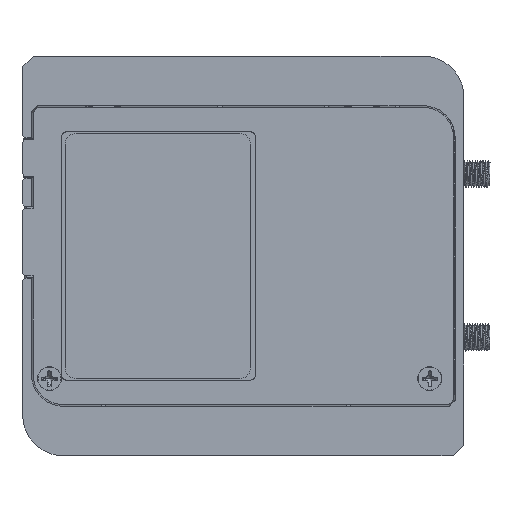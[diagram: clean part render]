
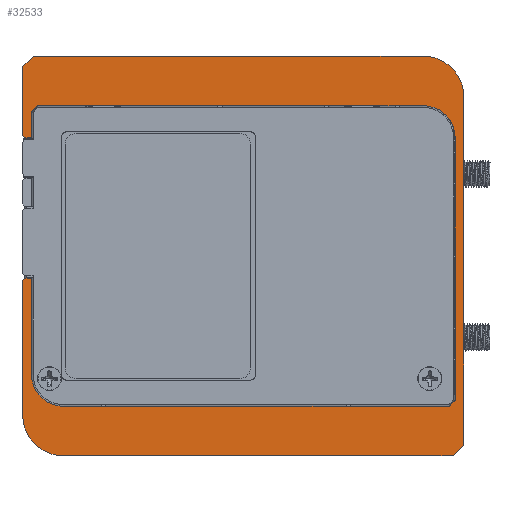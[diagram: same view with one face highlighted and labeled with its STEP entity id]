
A CAD part, front view. The second image highlights one B-rep face of the part: STEP entity #32533.
In plain terms, the highlighted planar face has unit normal (0, -1, 0).
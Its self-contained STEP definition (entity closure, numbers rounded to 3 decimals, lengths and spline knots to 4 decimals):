
#3701=DIRECTION('',(0.,0.,1.));
#3702=VECTOR('',#3701,3.1948);
#3703=CARTESIAN_POINT('',(2.0589,0.,-1.7349));
#3704=LINE('',#3703,#3702);
#4504=DIRECTION('',(0.,0.,1.));
#4505=VECTOR('',#4504,0.6299);
#4506=CARTESIAN_POINT('',(-1.9909,0.,1.105));
#4507=LINE('',#4506,#4505);
#4508=DIRECTION('',(0.707,0.,0.707));
#4509=VECTOR('',#4508,0.1414);
#4510=CARTESIAN_POINT('',(-1.9909,0.,
1.7349));
#4511=LINE('',#4510,#4509);
#4512=CARTESIAN_POINT('',(1.6839,0.,
1.4599));
#4513=DIRECTION('',(0.,1.,0.));
#4514=DIRECTION('',(0.,0.,1.));
#4515=AXIS2_PLACEMENT_3D('',#4512,#4513,#4514);
#4517=DIRECTION('',(-0.707,0.,-0.707));
#4518=VECTOR('',#4517,0.1414);
#4519=CARTESIAN_POINT('',(2.0589,0.,-1.7349));
#4520=LINE('',#4519,#4518);
#4521=CARTESIAN_POINT('',(-1.6159,0.,
-1.4599));
#4522=DIRECTION('',(0.,1.,0.));
#4523=DIRECTION('',(0.,0.,-1.));
#4524=AXIS2_PLACEMENT_3D('',#4521,#4522,#4523);
#4526=DIRECTION('',(0.,0.,1.));
#4527=VECTOR('',#4526,1.2379);
#4528=CARTESIAN_POINT('',(-1.9909,0.,
-1.4599));
#4529=LINE('',#4528,#4527);
#4530=DIRECTION('',(0.707,0.,0.707));
#4531=VECTOR('',#4530,0.0283);
#4532=CARTESIAN_POINT('',(-1.9909,0.,-0.222));
#4533=LINE('',#4532,#4531);
#4534=CARTESIAN_POINT('',(-1.616,0.,-1.085));
#4535=DIRECTION('',(0.,-1.,0.));
#4536=DIRECTION('',(-1.,0.,0.));
#4537=AXIS2_PLACEMENT_3D('',#4534,#4535,#4536);
#4539=DIRECTION('',(0.707,0.,0.707));
#4540=VECTOR('',#4539,0.077);
#4541=CARTESIAN_POINT('',(1.9244,0.,
-1.3798));
#4542=LINE('',#4541,#4540);
#4543=DIRECTION('',(0.,0.,1.));
#4544=VECTOR('',#4543,2.4104);
#4545=CARTESIAN_POINT('',(1.9788,0.,-1.3254));
#4546=LINE('',#4545,#4544);
#4547=CARTESIAN_POINT('',(1.684,0.,1.085));
#4548=DIRECTION('',(0.,-1.,0.));
#4549=DIRECTION('',(1.,0.,0.));
#4550=AXIS2_PLACEMENT_3D('',#4547,#4548,#4549);
#4552=DIRECTION('',(-1.,0.,0.));
#4553=VECTOR('',#4552,3.5404);
#4554=CARTESIAN_POINT('',(1.684,0.,1.3798));
#4555=LINE('',#4554,#4553);
#4556=DIRECTION('',(-0.707,0.,-0.707));
#4557=VECTOR('',#4556,0.077);
#4558=CARTESIAN_POINT('',(-1.8564,0.,1.3798));
#4559=LINE('',#4558,#4557);
#4560=DIRECTION('',(-0.707,0.,0.707));
#4561=VECTOR('',#4560,0.0283);
#4562=CARTESIAN_POINT('',(-1.9709,0.,1.085));
#4563=LINE('',#4562,#4561);
#4568=DIRECTION('',(-1.,0.,0.));
#4569=VECTOR('',#4568,3.5748);
#4570=CARTESIAN_POINT('',(1.6839,0.,1.8349));
#4571=LINE('',#4570,#4569);
#4588=DIRECTION('',(1.,0.,0.));
#4589=VECTOR('',#4588,3.5748);
#4590=CARTESIAN_POINT('',(-1.6159,0.,
-1.8349));
#4591=LINE('',#4590,#4589);
#4632=DIRECTION('',(0.,0.,1.));
#4633=VECTOR('',#4632,0.2404);
#4634=CARTESIAN_POINT('',(-1.9108,0.,1.085));
#4635=LINE('',#4634,#4633);
#4652=DIRECTION('',(0.,0.,1.));
#4653=VECTOR('',#4652,0.883);
#4654=CARTESIAN_POINT('',(-1.9108,0.,-1.085));
#4655=LINE('',#4654,#4653);
#8052=DIRECTION('',(-1.,0.,0.));
#8053=VECTOR('',#8052,0.06);
#8054=CARTESIAN_POINT('',(-1.9108,0.,-0.202));
#8055=LINE('',#8054,#8053);
#8902=DIRECTION('',(1.,0.,0.));
#8903=VECTOR('',#8902,0.06);
#8904=CARTESIAN_POINT('',(-1.9709,0.,1.085));
#8905=LINE('',#8904,#8903);
#10406=DIRECTION('',(-1.,0.,0.));
#10407=VECTOR('',#10406,3.5404);
#10408=CARTESIAN_POINT('',(1.9244,0.,
-1.3798));
#10409=LINE('',#10408,#10407);
#22143=CARTESIAN_POINT('',(1.9788,0.,
1.085));
#22144=VERTEX_POINT('',#22143);
#22145=CARTESIAN_POINT('',(1.9788,0.,-1.3254));
#22146=VERTEX_POINT('',#22145);
#22185=CARTESIAN_POINT('',(1.684,0.,1.3798));
#22187=VERTEX_POINT('',#22185);
#22197=CARTESIAN_POINT('',(-1.8564,0.,1.3798));
#22198=VERTEX_POINT('',#22197);
#22723=CARTESIAN_POINT('',(-1.9909,0.,1.105));
#22724=CARTESIAN_POINT('',(-1.9909,0.,
1.7349));
#22725=VERTEX_POINT('',#22723);
#22726=VERTEX_POINT('',#22724);
#22727=CARTESIAN_POINT('',(-1.9909,0.,
-1.4599));
#22728=CARTESIAN_POINT('',(-1.9909,0.,-0.222));
#22729=VERTEX_POINT('',#22727);
#22730=VERTEX_POINT('',#22728);
#22743=CARTESIAN_POINT('',(-1.8909,0.,1.8349));
#22744=VERTEX_POINT('',#22743);
#22745=CARTESIAN_POINT('',(1.6839,0.,
1.8349));
#22746=CARTESIAN_POINT('',(2.0589,0.,
1.4599));
#22747=VERTEX_POINT('',#22745);
#22748=VERTEX_POINT('',#22746);
#22749=CARTESIAN_POINT('',(2.0589,0.,-1.7349));
#22750=CARTESIAN_POINT('',(1.9589,0.,-1.8349));
#22751=VERTEX_POINT('',#22749);
#22752=VERTEX_POINT('',#22750);
#22753=CARTESIAN_POINT('',(-1.6159,0.,
-1.8349));
#22754=VERTEX_POINT('',#22753);
#22755=CARTESIAN_POINT('',(-1.9709,0.,-0.202));
#22756=VERTEX_POINT('',#22755);
#22757=CARTESIAN_POINT('',(-1.9108,0.,-1.085));
#22758=CARTESIAN_POINT('',(-1.9108,0.,-0.202));
#22759=VERTEX_POINT('',#22757);
#22760=VERTEX_POINT('',#22758);
#22761=CARTESIAN_POINT('',(-1.616,0.,-1.3798));
#22762=VERTEX_POINT('',#22761);
#22763=CARTESIAN_POINT('',(1.9244,0.,
-1.3798));
#22764=VERTEX_POINT('',#22763);
#22765=CARTESIAN_POINT('',(-1.9108,0.,
1.3254));
#22766=VERTEX_POINT('',#22765);
#22767=CARTESIAN_POINT('',(-1.9108,0.,1.085));
#22768=VERTEX_POINT('',#22767);
#22769=CARTESIAN_POINT('',(-1.9709,0.,1.085));
#22770=VERTEX_POINT('',#22769);
#32488=CARTESIAN_POINT('',(0.034,0.,0.));
#32489=DIRECTION('',(0.,1.,0.));
#32490=DIRECTION('',(1.,0.,0.));
#32491=AXIS2_PLACEMENT_3D('',#32488,#32489,#32490);
#32492=PLANE('',#32491);
#32493=ORIENTED_EDGE('',*,*,#31342,.T.);
#32495=ORIENTED_EDGE('',*,*,#32494,.T.);
#32497=ORIENTED_EDGE('',*,*,#32496,.F.);
#32499=ORIENTED_EDGE('',*,*,#32498,.T.);
#32500=ORIENTED_EDGE('',*,*,#31481,.F.);
#32502=ORIENTED_EDGE('',*,*,#32501,.T.);
#32504=ORIENTED_EDGE('',*,*,#32503,.F.);
#32506=ORIENTED_EDGE('',*,*,#32505,.T.);
#32507=ORIENTED_EDGE('',*,*,#31358,.T.);
#32509=ORIENTED_EDGE('',*,*,#32508,.T.);
#32511=ORIENTED_EDGE('',*,*,#32510,.F.);
#32513=ORIENTED_EDGE('',*,*,#32512,.F.);
#32515=ORIENTED_EDGE('',*,*,#32514,.T.);
#32517=ORIENTED_EDGE('',*,*,#32516,.F.);
#32519=ORIENTED_EDGE('',*,*,#32518,.T.);
#32520=ORIENTED_EDGE('',*,*,#32264,.T.);
#32521=ORIENTED_EDGE('',*,*,#31239,.T.);
#32522=ORIENTED_EDGE('',*,*,#30047,.T.);
#32524=ORIENTED_EDGE('',*,*,#32523,.T.);
#32526=ORIENTED_EDGE('',*,*,#32525,.F.);
#32528=ORIENTED_EDGE('',*,*,#32527,.F.);
#32530=ORIENTED_EDGE('',*,*,#32529,.T.);
#32531=EDGE_LOOP('',(#32493,#32495,#32497,#32499,#32500,#32502,#32504,#32506,
#32507,#32509,#32511,#32513,#32515,#32517,#32519,#32520,#32521,#32522,#32524,
#32526,#32528,#32530));
#32532=FACE_OUTER_BOUND('',#32531,.F.);
#32533=ADVANCED_FACE('',(#32532),#32492,.F.);
#4516=CIRCLE('',#4515,0.375);
#4525=CIRCLE('',#4524,0.375);
#4538=CIRCLE('',#4537,0.2948);
#4551=CIRCLE('',#4550,0.2948);
#30047=EDGE_CURVE('',#22187,#22198,#4555,.T.);
#31239=EDGE_CURVE('',#22144,#22187,#4551,.T.);
#31342=EDGE_CURVE('',#22725,#22726,#4507,.T.);
#31358=EDGE_CURVE('',#22729,#22730,#4529,.T.);
#31481=EDGE_CURVE('',#22751,#22748,#3704,.T.);
#32264=EDGE_CURVE('',#22146,#22144,#4546,.T.);
#32494=EDGE_CURVE('',#22726,#22744,#4511,.T.);
#32496=EDGE_CURVE('',#22747,#22744,#4571,.T.);
#32498=EDGE_CURVE('',#22747,#22748,#4516,.T.);
#32501=EDGE_CURVE('',#22751,#22752,#4520,.T.);
#32503=EDGE_CURVE('',#22754,#22752,#4591,.T.);
#32505=EDGE_CURVE('',#22754,#22729,#4525,.T.);
#32508=EDGE_CURVE('',#22730,#22756,#4533,.T.);
#32510=EDGE_CURVE('',#22760,#22756,#8055,.T.);
#32512=EDGE_CURVE('',#22759,#22760,#4655,.T.);
#32514=EDGE_CURVE('',#22759,#22762,#4538,.T.);
#32516=EDGE_CURVE('',#22764,#22762,#10409,.T.);
#32518=EDGE_CURVE('',#22764,#22146,#4542,.T.);
#32523=EDGE_CURVE('',#22198,#22766,#4559,.T.);
#32525=EDGE_CURVE('',#22768,#22766,#4635,.T.);
#32527=EDGE_CURVE('',#22770,#22768,#8905,.T.);
#32529=EDGE_CURVE('',#22770,#22725,#4563,.T.);
